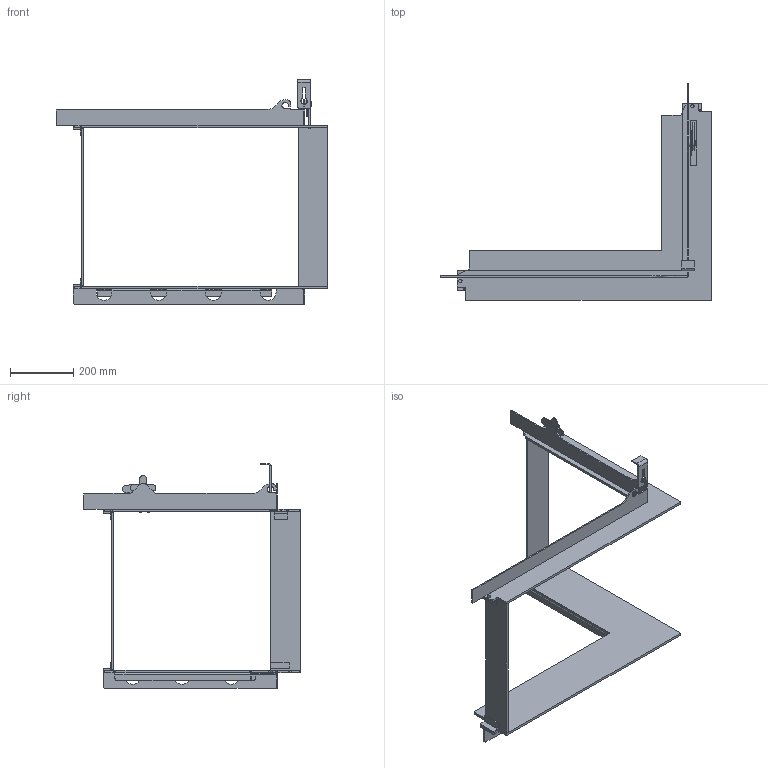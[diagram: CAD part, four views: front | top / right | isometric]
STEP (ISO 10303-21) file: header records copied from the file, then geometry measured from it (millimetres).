
FILE_DESCRIPTION(/* description */ (''),/* implementation_level */ '2;1');
FILE_NAME(/* name */ 'C:\Users\jku\Desktop\Export\RII 50x68x50 Einbaurahmen Rechts angeschraubt CAD Planung defriten 200109.stp',/* time_stamp */ '2020-01-09T07:45:58+01:00',/* author */ ('JKU'),/* organization */ (''),/* preprocessor_version */ 'ST-DEVELOPER v17.2',/* originating_system */ 'Autodesk Inventor 2019',/* authorisation */ '');
FILE_SCHEMA (('AUTOMOTIVE_DESIGN { 1 0 10303 214 3 1 1 }'));
Length unit declared in the file: millimetre
Products named in the file (1): 2020-00049
Bounding box: 854.9 x 682.5 x 709 mm (x, y, z)
Volume: 4176339.6 mm3; surface area: 1390439.3 mm2
Topology: 21 solids, 21 shells, 498 faces, 1310 edges, 840 vertices
Faces by surface type: plane 271, cylinder 211, bspline 12, cone 4
Full cylindrical faces by diameter (mm): 10 x1, 10.21 x2, 16 x1, 20 x2, 25 x2
Entity records: 15695 total; most frequent: CARTESIAN_POINT 2901, DIRECTION 2690, ORIENTED_EDGE 2620, EDGE_CURVE 1310, AXIS2_PLACEMENT_3D 917, LINE 856, VECTOR 856, VERTEX_POINT 840
